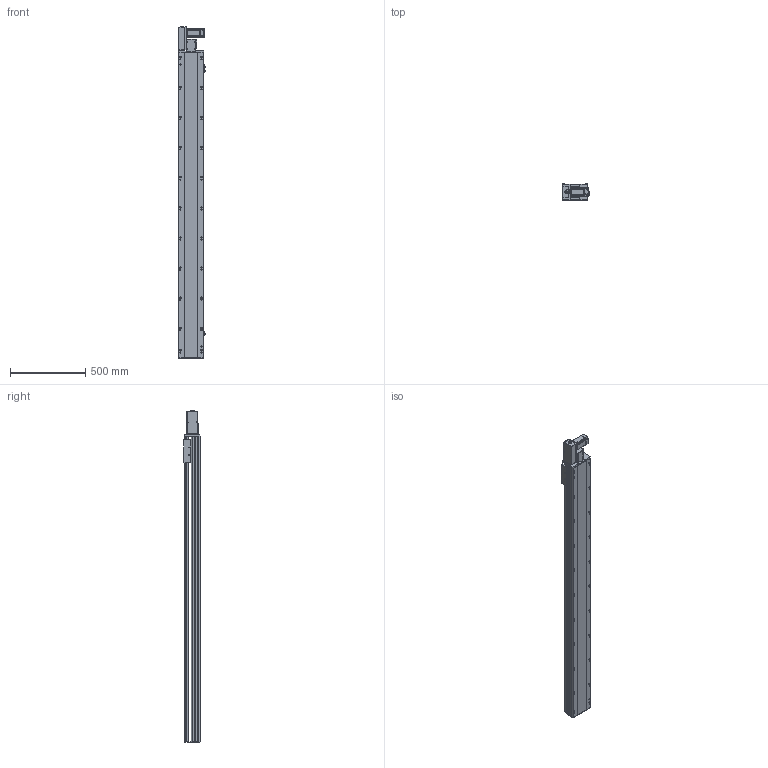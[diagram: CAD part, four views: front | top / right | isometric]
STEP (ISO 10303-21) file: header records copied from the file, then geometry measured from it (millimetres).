
FILE_DESCRIPTION (( 'STEP AP214' ), '1' );
FILE_NAME ('TPT17M-L40-1750-L-T40-C4.STEP', '2023-03-24T03:35:41', ( '' ), ( '' ), 'SwSTEP 2.0', 'SolidWorks 2020', '' );
FILE_SCHEMA (( 'AUTOMOTIVE_DESIGN' ));
Length unit declared in the file: millimetre
Products named in the file (11): 葩璃 TPT17-L-002 奻裔MZ-170-05^TPT17M-L40-L-T40-C4; 葩璃 TPT17-L-005 賑釱MZ-170-07^TPT17M-L40-L-T40-C4; 葩璃 (2) TPT14-L-009 萇儂啣^TPT17M-L40-L-T40-C4_400W; 葩璃 pm-t65-672^TPT17M-L40-L-T40-C4; 葩璃 侂狟400W^TPT17M-L40-L-T40-C4; hex nuts, style 1-grades ab gb_GB_FASTENER_NUT_SNAB1 M3-N; hexagon head bolts-full thread gb_GB_FASTENER_BOLT_STBAB A M5X16-N; hexagon socket head cap screws gb_GB_FASTENER_SCREWS_HSHCS M3X6-N; 葩璃 TPT17-L-001 菁釱MZ-170-01^TPT17M-L40-L-T40-C4; 葩璃 TPT17-L-007 々湍釱MZ-169x88^TPT17M-L40-L-T40-C4_TPT17M; TPT17M-L40-1750-L-T40-C4
Assembly tree (22 placements, depth 2):
  TPT17M-L40-1750-L-T40-C4
    葩璃 TPT17-L-001 菁釱MZ-170-01^TPT17M-L40-L-T40-C4
    葩璃 TPT17-L-002 奻裔MZ-170-05^TPT17M-L40-L-T40-C4
    葩璃 TPT17-L-005 賑釱MZ-170-07^TPT17M-L40-L-T40-C4
    葩璃 TPT17-L-007 々湍釱MZ-169x88^TPT17M-L40-L-T40-C4_TPT17M
    葩璃 (2) TPT14-L-009 萇儂啣^TPT17M-L40-L-T40-C4_400W
    葩璃 pm-t65-672^TPT17M-L40-L-T40-C4  x3
    葩璃 侂狟400W^TPT17M-L40-L-T40-C4
    hexagon socket head cap screws gb_GB_FASTENER_SCREWS_HSHCS M3X6-N  x6
    hex nuts, style 1-grades ab gb_GB_FASTENER_NUT_SNAB1 M3-N  x6
    hexagon head bolts-full thread gb_GB_FASTENER_BOLT_STBAB A M5X16-N
Bounding box: 183.7 x 108 x 2206.65 mm (x, y, z)
Volume: 21745651.6 mm3; surface area: 2153087.9 mm2
Topology: 30 solids, 30 shells, 1793 faces, 4594 edges, 2902 vertices
Faces by surface type: plane 929, cylinder 596, cone 230, bspline 26, torus 12
Entity records: 43801 total; most frequent: CARTESIAN_POINT 8300, DIRECTION 7205, ORIENTED_EDGE 6752, EDGE_CURVE 3376, AXIS2_PLACEMENT_3D 2570, VERTEX_POINT 2193, VECTOR 2065, LINE 2065
